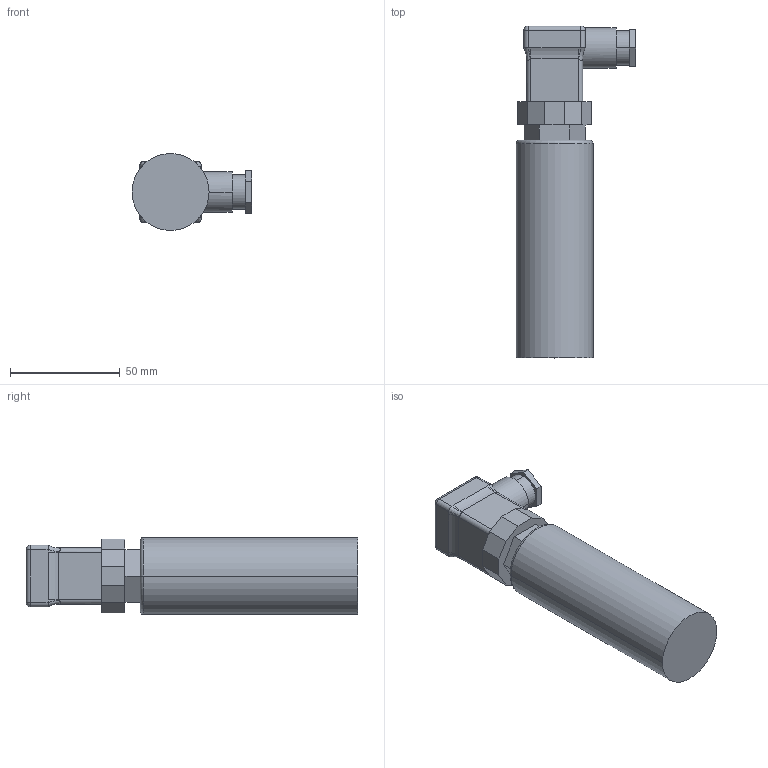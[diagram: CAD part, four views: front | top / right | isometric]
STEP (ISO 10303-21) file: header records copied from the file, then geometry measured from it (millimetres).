
FILE_DESCRIPTION((''),'2;1');
FILE_NAME('CAT_I_451','2024-11-13T10:42:20',('LGZ'),(''),'CREO PARAMETRIC BY PTC INC, 2023072','CREO PARAMETRIC BY PTC INC, 2023072','');
FILE_SCHEMA(('AUTOMOTIVE_DESIGN { 1 0 10303 214 1 1 1 1 }'));
Length unit declared in the file: millimetre
Products named in the file (1): CAT_I_451
Bounding box: 54.5 x 151 x 35 mm (x, y, z)
Volume: 134476.8 mm3; surface area: 21610.6 mm2
Topology: 1 solids, 3 shells, 93 faces, 219 edges, 135 vertices
Faces by surface type: plane 44, cylinder 29, bspline 12, sphere 4, torus 2, cone 2
Entity records: 3322 total; most frequent: CARTESIAN_POINT 1061, ORIENTED_EDGE 430, DIRECTION 425, EDGE_CURVE 217, AXIS2_PLACEMENT_3D 150, VERTEX_POINT 135, VECTOR 125, LINE 125
